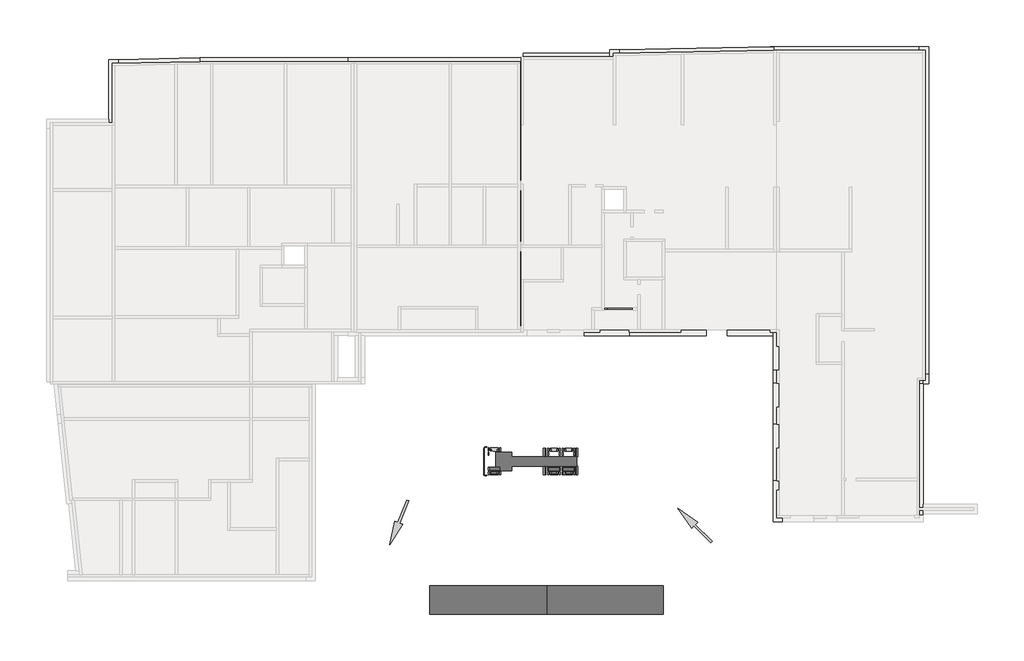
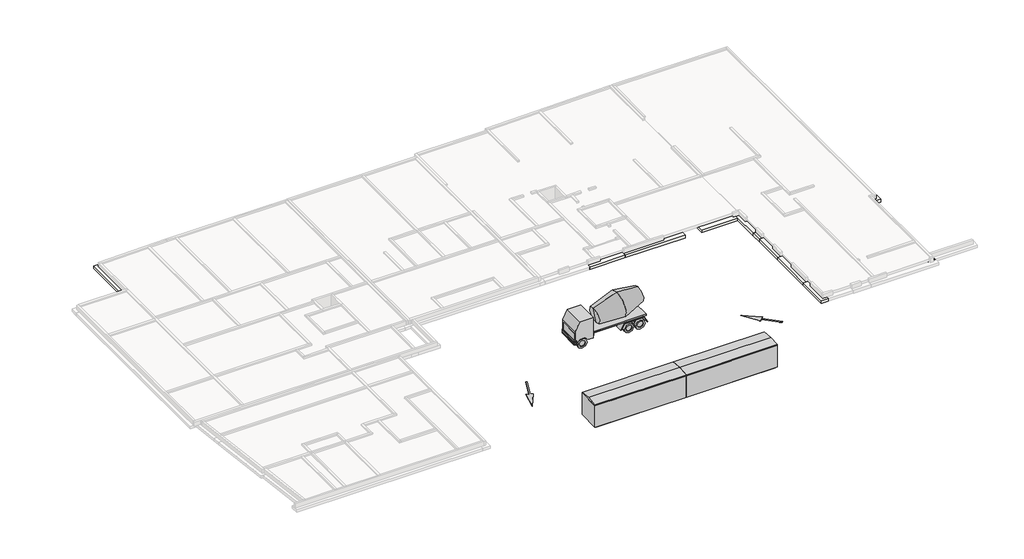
# One storey, part 5 of 5: 54 footings, 5 geographic elements.
"""IFC4 building model written with IfcOpenShell, lengths in millimetres."""

from ifc_helpers import new_model, si_unit, frame, origin, place, context, project, spatial, polyline, outline, extrude, faceted_brep, transform, mapped, element, save
from components import geographic_element_b339a1e2, geographic_element_11632a1a, geographic_element_9800mm_x_2400mm_0ce7ae14

model = new_model("IFC4")

# Units and contexts
model_context = context("Model", 3, world=origin())
ifc_project = project(units=[si_unit("LENGTHUNIT", "METRE", prefix="MILLI")], contexts=[model_context])

# Site, building, storey
site = spatial("IfcSite", under=ifc_project)
building = spatial("IfcBuilding", under=site)
storey = spatial("IfcBuildingStorey", under=building, Name="Base Mur soubassement", Elevation=-480.0)

# Footings
placement = place(None, origin())
element("IfcFooting", 1, ObjectType="Soubassement 30 cm/30 cm x 30 cm", at=placement, inside=storey, context=model_context, shape_type="Brep", body=[
    faceted_brep([(23329.3002373, 36682.4079561, -480.0), (24379.3002373, 36682.4079561, -480.0), (31528.7587922, 36682.4079561, -480.0), (32328.7587922, 36682.4079561, -480.0), (37308.398272, 36682.4079561, -480.0), (38358.398272, 36682.4079561, -480.0), (38358.398272, 37080.5992191, -480.0), (38358.398272, 37482.4079561, -480.0), (38068.6597873, 37482.4079561, -480.0), (23329.3002373, 37482.4079561, -480.0), (23329.3002373, 37482.4079561, -780.0), (38358.398272, 37482.4079561, -780.0), (38068.6597873, 37482.4079561, -780.0), (23329.3002373, 36682.4079561, -780.0), (38358.398272, 37080.5992191, -780.0), (38358.398272, 36682.4079561, -780.0), (37308.398272, 36682.4079561, -780.0), (32328.7587922, 36682.4079561, -780.0), (31528.7587922, 36682.4079561, -780.0), (24379.3002373, 36682.4079561, -780.0)], [[[0, 1, 2, 3, 4, 5, 6, 7, 8, 9]], [[10, 9, 8, 7, 11, 12]], [[13, 10, 12, 11, 14, 15, 16, 17, 18, 19]], [[0, 13, 19, 18, 17, 16, 15, 5, 4, 3, 2, 1]], [[0, 9, 10, 13]], [[7, 6, 5, 15, 14, 11]]]),
])
element("IfcFooting", 2, ObjectType="Soubassement 30 cm/30 cm x 30 cm", at=placement, inside=storey, context=model_context, shape_type="SweptSolid", body=[
    extrude(outline(polyline([(34393.5365752, 26372.4500352), (35193.5365752, 26372.4500352), (35193.5365752, 22073.8066571), (34393.5365752, 22073.8066571), (34393.5365752, 26372.4500352)])), frame((0.0, 0.0, -780.0), z_axis=(0.0, 0.0, 1.0), x_axis=(1.0, 0.0, 0.0)), (0.0, 0.0, 1.0), 300.0),
])
element("IfcFooting", 3, ObjectType="Soubassement 30 cm/30 cm x 30 cm", at=placement, inside=storey, context=model_context, shape_type="Brep", body=[
    faceted_brep([(4056.9078335, 32028.092309, -480.0), (3256.9078335, 32028.092309, -480.0), (3256.9078335, 32028.092309, -780.0), (4056.9078335, 32028.092309, -780.0), (4056.9078335, 36546.0880565, -480.0), (4056.9078335, 37346.2466037, -480.0), (3256.9078335, 37330.3186215, -480.0), (3256.9078335, 32328.092309, -480.0), (3256.9078335, 37330.3186215, -780.0), (3256.9078335, 32328.092309, -780.0), (4056.9078335, 37346.2466037, -780.0), (4056.9078335, 36546.0880565, -780.0)], [[[0, 1, 2, 3]], [[0, 4, 5, 6, 7, 1]], [[2, 1, 7, 6, 8, 9]], [[3, 2, 9, 8, 10, 11]], [[0, 3, 11, 10, 5, 4]], [[6, 5, 10, 8]]]),
])
element("IfcFooting", 4, ObjectType="Soubassement 30 cm/30 cm x 30 cm", at=placement, inside=storey, context=model_context, shape_type="Brep", body=[
    faceted_brep([(10903.7211106, 36682.4079561, -480.0), (10895.7579086, 37482.4079561, -480.0), (4056.9078335, 37346.2466037, -480.0), (4056.9078335, 36546.0880565, -480.0), (8517.5794193, 36634.8999283, -480.0), (9317.5794193, 36650.8279104, -480.0), (10895.7579086, 37482.4079561, -780.0), (4056.9078335, 37346.2466037, -780.0), (10903.7211106, 36682.4079561, -780.0), (9317.5794193, 36650.8279104, -780.0), (8517.5794193, 36634.8999283, -780.0), (4056.9078335, 36546.0880565, -780.0)], [[[0, 1, 2, 3, 4, 5]], [[1, 6, 7, 2]], [[6, 8, 9, 10, 11, 7]], [[8, 0, 5, 4, 3, 11, 10, 9]], [[3, 2, 7, 11]], [[1, 0, 8, 6]]]),
])
element("IfcFooting", 5, ObjectType="Soubassement 30 cm/30 cm x 30 cm", at=placement, inside=storey, context=model_context, shape_type="Brep", body=[
    faceted_brep([(10895.7579086, 37482.4079561, -480.0), (10903.7211106, 36682.4079561, -480.0), (11503.2656575, 36682.4079561, -480.0), (12303.2656575, 36682.4079561, -480.0), (17699.2548774, 36682.4079561, -480.0), (18499.2548774, 36682.4079561, -480.0), (23329.3002373, 36682.4079561, -480.0), (23329.3002373, 37482.4079561, -480.0), (10895.7579086, 37482.4079561, -780.0), (23329.3002373, 37482.4079561, -780.0), (10903.7211106, 36682.4079561, -780.0), (23329.3002373, 36682.4079561, -780.0), (18499.2548774, 36682.4079561, -780.0), (17699.2548774, 36682.4079561, -780.0), (12303.2656575, 36682.4079561, -780.0), (11503.2656575, 36682.4079561, -780.0)], [[[0, 1, 2, 3, 4, 5, 6, 7]], [[8, 0, 7, 9]], [[10, 8, 9, 11, 12, 13, 14, 15]], [[1, 10, 15, 14, 13, 12, 11, 6, 5, 4, 3, 2]], [[1, 0, 8, 10]], [[7, 6, 11, 9]]]),
])
element("IfcFooting", 6, ObjectType="Soubassement 30 cm/30 cm x 30 cm", at=placement, inside=storey, context=model_context, shape_type="Brep", body=[
    faceted_brep([(72098.498036, 10114.8529282, -480.0), (72098.498036, 38441.1158593, -480.0), (71298.498036, 38441.1158593, -480.0), (71298.498036, 37641.1158593, -480.0), (71298.498036, 15061.7009875, -480.0), (71298.498036, 14261.7009875, -480.0), (71298.498036, 10914.8529282, -480.0), (71298.498036, 10114.8529282, -480.0), (71617.0236897, 10114.8529282, -480.0), (71298.498036, 10114.8529282, -780.0), (71298.498036, 38441.1158593, -780.0), (71298.498036, 37641.1158593, -780.0), (71298.498036, 15061.7009875, -780.0), (71298.498036, 14261.7009875, -780.0), (71298.498036, 10914.8529282, -780.0), (72098.498036, 10114.8529282, -780.0), (71617.0236897, 10114.8529282, -780.0), (72098.498036, 38441.1158593, -780.0)], [[[0, 1, 2, 3, 4, 5, 6, 7, 8]], [[9, 7, 6, 5, 4, 3, 2, 10, 11, 12, 13, 14]], [[15, 16, 9, 14, 13, 12, 11, 10, 17]], [[0, 15, 17, 1]], [[0, 8, 7, 9, 16, 15]], [[2, 1, 17, 10]]]),
])
element("IfcFooting", 7, ObjectType="Soubassement 30 cm/30 cm x 30 cm", at=placement, inside=storey, context=model_context, shape_type="Brep", body=[
    faceted_brep([(71617.0236897, -917.313191, -780.0), (71617.0236897, -917.313191, -480.0), (70817.0236897, -917.313191, -480.0), (70817.0236897, -917.313191, -780.0), (70817.0236897, 10914.8529282, -480.0), (70817.0236897, 2504.0314703, -480.0), (70817.0236897, 1704.0314703, -480.0), (70817.0236897, -637.3118451, -480.0), (71617.0236897, -637.3118451, -480.0), (71617.0236897, 11.008028, -480.0), (71617.0236897, 10114.8529282, -480.0), (71298.498036, 10114.8529282, -480.0), (71298.498036, 10914.8529282, -480.0), (71617.0236897, -637.3118451, -780.0), (71617.0236897, 11.008028, -780.0), (71617.0236897, 10114.8529282, -780.0), (70817.0236897, -637.3118451, -780.0), (70817.0236897, 1704.0314703, -780.0), (70817.0236897, 2504.0314703, -780.0), (70817.0236897, 10914.8529282, -780.0), (71298.498036, 10914.8529282, -780.0), (71298.498036, 10114.8529282, -780.0)], [[[0, 1, 2, 3]], [[4, 5, 6, 7, 2, 1, 8, 9, 10, 11, 12]], [[1, 0, 13, 14, 15, 10, 9, 8]], [[0, 3, 16, 17, 18, 19, 20, 21, 15, 14, 13]], [[3, 2, 7, 6, 5, 4, 19, 18, 17, 16]], [[11, 21, 20, 12]], [[19, 4, 12, 20]], [[21, 11, 10, 15]]]),
])
element("IfcFooting", 8, ObjectType="Soubassement 30 cm/30 cm x 30 cm", at=placement, inside=storey, context=model_context, shape_type="Brep", body=[
    faceted_brep([(64513.2256523, 14241.7009875, -480.0), (65313.2256523, 14241.7009875, -480.0), (65313.2256523, 14241.7009875, -780.0), (64513.2256523, 14241.7009875, -780.0), (65313.2256523, -637.3118451, -480.0), (64513.2256523, 12249.233281, -480.0), (64513.2256523, 11449.233281, -480.0), (64513.2256523, -637.3118451, -480.0), (64513.2256523, -637.3118451, -780.0), (64513.2256523, 12249.233281, -780.0), (64513.2256523, 11449.233281, -780.0), (65313.2256523, -637.3118451, -780.0)], [[[0, 1, 2, 3]], [[4, 1, 0, 5, 6, 7]], [[8, 7, 6, 5, 0, 3, 9, 10]], [[11, 8, 10, 9, 3, 2]], [[4, 11, 2, 1]], [[4, 7, 8, 11]]]),
])
element("IfcFooting", 9, ObjectType="Soubassement 30 cm/30 cm x 30 cm", at=placement, inside=storey, context=model_context, shape_type="SweptSolid", body=[
    extrude(outline(polyline([(70817.0236897, 2504.0314703), (70817.0236897, 1704.0314703), (65324.2458389, 1704.0314703), (65324.2458389, 2504.0314703), (70817.0236897, 2504.0314703)])), frame((0.0, 0.0, -780.0), z_axis=(0.0, 0.0, 1.0), x_axis=(1.0, 0.0, 0.0)), (0.0, 0.0, 1.0), 300.0),
])
element("IfcFooting", 10, ObjectType="Soubassement 30 cm/30 cm x 30 cm", at=placement, inside=storey, context=model_context, shape_type="Brep", body=[
    faceted_brep([(62372.0019144, 12249.233281, -480.0), (62372.0019144, 11449.233281, -480.0), (64513.2256523, 11449.233281, -480.0), (64513.2256523, 12249.233281, -480.0), (63172.0019144, 12249.233281, -480.0), (62372.0019144, 11449.233281, -780.0), (64513.2256523, 11449.233281, -780.0), (62372.0019144, 12249.233281, -780.0), (63172.0019144, 12249.233281, -780.0), (64513.2256523, 12249.233281, -780.0)], [[[0, 1, 2, 3, 4]], [[1, 5, 6, 2]], [[5, 7, 8, 9, 6]], [[7, 0, 4, 3, 9, 8]], [[3, 2, 6, 9]], [[1, 0, 7, 5]]]),
])
element("IfcFooting", 11, ObjectType="Soubassement 30 cm/30 cm x 30 cm", at=placement, inside=storey, context=model_context, shape_type="Brep", body=[
    faceted_brep([(63172.0019144, 16304.7371374, -480.0), (62372.0019144, 16304.7371374, -480.0), (62372.0019144, 12249.233281, -480.0), (63172.0019144, 12249.233281, -480.0), (63172.0019144, 15504.7371374, -480.0), (62372.0019144, 16304.7371374, -780.0), (62372.0019144, 12249.233281, -780.0), (63172.0019144, 16304.7371374, -780.0), (63172.0019144, 15504.7371374, -780.0), (63172.0019144, 12249.233281, -780.0)], [[[0, 1, 2, 3, 4]], [[1, 5, 6, 2]], [[5, 7, 8, 9, 6]], [[7, 0, 4, 3, 9, 8]], [[3, 2, 6, 9]], [[1, 0, 7, 5]]]),
])
element("IfcFooting", 12, ObjectType="Soubassement 30 cm/30 cm x 30 cm", at=placement, inside=storey, context=model_context, shape_type="Brep", body=[
    faceted_brep([(64512.3933514, 20922.6249159, -480.0), (64512.3933514, 16304.7371374, -480.0), (64512.3933514, 15504.7371374, -480.0), (64512.3933514, 14261.7009875, -480.0), (65312.3933514, 14261.7009875, -480.0), (65312.3933514, 15061.7009875, -480.0), (65312.3933514, 20922.6249159, -480.0), (65312.3933514, 20922.6249159, -780.0), (65312.3933514, 14261.7009875, -780.0), (65312.3933514, 15061.7009875, -780.0), (64512.3933514, 20922.6249159, -780.0), (64512.3933514, 14261.7009875, -780.0), (64512.3933514, 15504.7371374, -780.0), (64512.3933514, 16304.7371374, -780.0)], [[[0, 1, 2, 3, 4, 5, 6]], [[7, 6, 5, 4, 8, 9]], [[10, 7, 9, 8, 11, 12, 13]], [[0, 10, 13, 12, 11, 3, 2, 1]], [[4, 3, 11, 8]], [[0, 6, 7, 10]]]),
])
element("IfcFooting", 13, ObjectType="Soubassement 30 cm/30 cm x 30 cm", at=placement, inside=storey, context=model_context, shape_type="SweptSolid", body=[
    extrude(outline(polyline([(64512.3933514, 16304.7371374), (64512.3933514, 15504.7371374), (63172.0019144, 15504.7371374), (63172.0019144, 16304.7371374), (64512.3933514, 16304.7371374)])), frame((0.0, 0.0, -780.0), z_axis=(0.0, 0.0, 1.0), x_axis=(1.0, 0.0, 0.0)), (0.0, 0.0, 1.0), 300.0),
])
element("IfcFooting", 14, ObjectType="Soubassement 30 cm/30 cm x 30 cm", at=placement, inside=storey, context=model_context, shape_type="SweptSolid", body=[
    extrude(outline(polyline([(65312.3933514, 14261.7009875), (65312.3933514, 15061.7009875), (71298.498036, 15061.7009875), (71298.498036, 14261.7009875), (65312.3933514, 14261.7009875)])), frame((0.0, 0.0, -780.0), z_axis=(0.0, 0.0, 1.0), x_axis=(1.0, 0.0, 0.0)), (0.0, 0.0, 1.0), 300.0),
])
element("IfcFooting", 15, ObjectType="Soubassement 30 cm/30 cm x 30 cm", at=placement, inside=storey, context=model_context, shape_type="Brep", body=[
    faceted_brep([(59853.8975177, 11276.7065018, -480.0), (59852.9134361, 11276.7065018, -480.0), (59053.8975177, 11276.7065018, -480.0), (59053.8975177, 11276.7065018, -780.0), (59852.9134361, 11276.7065018, -780.0), (59853.8975177, 11276.7065018, -780.0), (59053.8975177, 14660.5941452, -480.0), (59853.8975177, 14660.5941452, -480.0), (59853.8975177, 14660.5941452, -780.0), (59053.8975177, 14660.5941452, -780.0), (59053.8975177, 14157.8380715, -480.0), (59053.8975177, 14157.8380715, -780.0)], [[[0, 1, 2, 3, 4, 5]], [[6, 7, 8, 9]], [[0, 7, 6, 10, 2, 1]], [[3, 2, 10, 6, 9, 11]], [[5, 4, 3, 11, 9, 8]], [[0, 5, 8, 7]]]),
])
element("IfcFooting", 16, ObjectType="Soubassement 30 cm/30 cm x 30 cm", at=placement, inside=storey, context=model_context, shape_type="Brep", body=[
    faceted_brep([(59852.9134361, 10176.7065018, -480.0), (59053.8975177, 10176.7065018, -480.0), (59052.9134361, 10176.7065018, -480.0), (59052.9134361, 10176.7065018, -780.0), (59053.8975177, 10176.7065018, -780.0), (59852.9134361, 10176.7065018, -780.0), (59052.9134361, 11276.7065018, -480.0), (59053.8975177, 11276.7065018, -480.0), (59852.9134361, 11276.7065018, -480.0), (59852.9134361, 11276.7065018, -780.0), (59053.8975177, 11276.7065018, -780.0), (59052.9134361, 11276.7065018, -780.0)], [[[0, 1, 2, 3, 4, 5]], [[6, 7, 8, 9, 10, 11]], [[0, 8, 7, 6, 2, 1]], [[3, 2, 6, 11]], [[5, 4, 3, 11, 10, 9]], [[0, 5, 9, 8]]]),
])
element("IfcFooting", 17, ObjectType="Soubassement 30 cm/30 cm x 30 cm", at=placement, inside=storey, context=model_context, shape_type="Brep", body=[
    faceted_brep([(59853.8975177, 6727.955072, -480.0), (59053.8975177, 6727.955072, -480.0), (59053.8975177, 6727.955072, -780.0), (59853.8975177, 6727.955072, -780.0), (59053.8975177, 10176.7065018, -480.0), (59852.9134361, 10176.7065018, -480.0), (59853.8975177, 10176.7065018, -480.0), (59853.8975177, 10176.7065018, -780.0), (59852.9134361, 10176.7065018, -780.0), (59053.8975177, 10176.7065018, -780.0)], [[[0, 1, 2, 3]], [[4, 5, 6, 7, 8, 9]], [[0, 6, 5, 4, 1]], [[2, 1, 4, 9]], [[3, 2, 9, 8, 7]], [[0, 3, 7, 6]]]),
])
element("IfcFooting", 18, ObjectType="Soubassement 30 cm/30 cm x 30 cm", at=placement, inside=storey, context=model_context, shape_type="Brep", body=[
    faceted_brep([(59853.8975177, 1982.6881549, -480.0), (59852.8933514, 1982.6881549, -480.0), (59053.8975177, 1982.6881549, -480.0), (59053.8975177, 1982.6881549, -780.0), (59852.8933514, 1982.6881549, -780.0), (59853.8975177, 1982.6881549, -780.0), (59053.8975177, 6727.955072, -480.0), (59853.8975177, 6727.955072, -480.0), (59853.8975177, 6727.955072, -780.0), (59053.8975177, 6727.955072, -780.0)], [[[0, 1, 2, 3, 4, 5]], [[6, 7, 8, 9]], [[0, 7, 6, 2, 1]], [[3, 2, 6, 9]], [[5, 4, 3, 9, 8]], [[0, 5, 8, 7]]]),
])
element("IfcFooting", 19, ObjectType="Soubassement 30 cm/30 cm x 30 cm", at=placement, inside=storey, context=model_context, shape_type="Brep", body=[
    faceted_brep([(59052.8933514, 1982.6881549, -480.0), (59053.8975177, 1982.6881549, -480.0), (59852.8933514, 1982.6881549, -480.0), (59852.8933514, 1982.6881549, -780.0), (59053.8975177, 1982.6881549, -780.0), (59052.8933514, 1982.6881549, -780.0), (59852.8933514, -1433.5235574, -480.0), (59852.8933514, -633.5235574, -480.0), (59052.8933514, -1433.5235574, -480.0), (59052.8933514, -1433.5235574, -780.0), (59852.8933514, -1433.5235574, -780.0), (59852.8933514, -633.5235574, -780.0)], [[[0, 1, 2, 3, 4, 5]], [[6, 7, 2, 1, 0, 8]], [[9, 8, 0, 5]], [[10, 9, 5, 4, 3, 11]], [[6, 10, 11, 3, 2, 7]], [[6, 8, 9, 10]]]),
])
element("IfcFooting", 20, ObjectType="Soubassement 30 cm/30 cm x 30 cm", at=placement, inside=storey, context=model_context, shape_type="SweptSolid", body=[
    extrude(outline(polyline([(55181.1686241, 14157.8380715), (55181.1686241, 14957.8380715), (59853.8975177, 14957.8380715), (59853.8975177, 14660.5941452), (59053.8975177, 14660.5941452), (59053.8975177, 14157.8380715), (55181.1686241, 14157.8380715)])), frame((0.0, 0.0, -780.0), z_axis=(0.0, 0.0, 1.0), x_axis=(1.0, 0.0, 0.0)), (0.0, 0.0, 1.0), 300.0),
])
element("IfcFooting", 21, ObjectType="Soubassement 30 cm/30 cm x 30 cm", at=placement, inside=storey, context=model_context, shape_type="Brep", body=[
    faceted_brep([(53429.9149229, 14957.8380717, -480.0), (53429.9149229, 14157.8380717, -480.0), (53429.9149229, 14157.8380717, -780.0), (53429.9149229, 14957.8380717, -780.0), (46971.20252, 14157.8380717, -480.0), (46971.20252, 14162.1405969, -480.0), (46971.20252, 14957.8380717, -480.0), (46971.20252, 14957.8380717, -780.0), (46971.20252, 14162.1405969, -780.0), (46971.20252, 14157.8380717, -780.0), (50224.9149229, 14957.8380717, -480.0), (49424.9149229, 14957.8380717, -480.0), (48187.6540405, 14957.8380717, -480.0), (47387.6540405, 14957.8380717, -480.0), (47387.6540405, 14957.8380717, -780.0), (48187.6540405, 14957.8380717, -780.0), (49424.9149229, 14957.8380717, -780.0), (50224.9149229, 14957.8380717, -780.0)], [[[0, 1, 2, 3]], [[4, 5, 6, 7, 8, 9]], [[0, 10, 11, 12, 13, 6, 5, 4, 1]], [[2, 1, 4, 9]], [[3, 2, 9, 8, 7, 14, 15, 16, 17]], [[0, 3, 17, 16, 15, 14, 7, 6, 13, 12, 11, 10]]]),
])
element("IfcFooting", 22, ObjectType="Soubassement 30 cm/30 cm x 30 cm", at=placement, inside=storey, context=model_context, shape_type="Brep", body=[
    faceted_brep([(59092.1504559, 21722.6249159, -480.0), (59092.1504559, 20922.6249159, -480.0), (59092.1504559, 20922.6249159, -780.0), (59092.1504559, 21722.6249159, -780.0), (49424.9149229, 20922.6249159, -480.0), (50224.9149229, 20922.6249159, -480.0), (58792.2183923, 21722.6249159, -480.0), (55555.0439194, 21722.6249159, -480.0), (54755.0439194, 21722.6249159, -480.0), (50224.9149229, 21722.6249159, -480.0), (49424.9149229, 21722.6249159, -480.0), (49424.9149229, 21722.6249159, -780.0), (58792.2183923, 21722.6249159, -780.0), (55555.0439194, 21722.6249159, -780.0), (54755.0439194, 21722.6249159, -780.0), (50224.9149229, 21722.6249159, -780.0), (49424.9149229, 20922.6249159, -780.0), (50224.9149229, 20922.6249159, -780.0)], [[[0, 1, 2, 3]], [[4, 5, 1, 0, 6, 7, 8, 9, 10]], [[11, 10, 9, 8, 7, 6, 0, 3, 12, 13, 14, 15]], [[16, 11, 15, 14, 13, 12, 3, 2, 17]], [[4, 16, 17, 2, 1, 5]], [[4, 10, 11, 16]]]),
])
element("IfcFooting", 23, ObjectType="Soubassement 30 cm/30 cm x 30 cm", at=placement, inside=storey, context=model_context, shape_type="Brep", body=[
    faceted_brep([(59352.3933514, 20922.6249159, -480.0), (64512.3933514, 20922.6249159, -480.0), (65312.3933514, 20922.6249159, -480.0), (65913.8694348, 20922.6249159, -480.0), (65913.8694348, 21722.6249159, -480.0), (65113.8694348, 21722.6249159, -480.0), (59852.3933514, 21722.6249159, -480.0), (59352.3933514, 21722.6249159, -480.0), (59352.3933514, 21722.6249159, -780.0), (65913.8694348, 21722.6249159, -780.0), (65113.8694348, 21722.6249159, -780.0), (59852.3933514, 21722.6249159, -780.0), (59352.3933514, 20922.6249159, -780.0), (65913.8694348, 20922.6249159, -780.0), (65312.3933514, 20922.6249159, -780.0), (64512.3933514, 20922.6249159, -780.0)], [[[0, 1, 2, 3, 4, 5, 6, 7]], [[8, 7, 6, 5, 4, 9, 10, 11]], [[12, 8, 11, 10, 9, 13, 14, 15]], [[0, 12, 15, 14, 13, 3, 2, 1]], [[4, 3, 13, 9]], [[0, 7, 8, 12]]]),
])
element("IfcFooting", 24, ObjectType="Soubassement 30 cm/30 cm x 30 cm", at=placement, inside=storey, context=model_context, shape_type="SweptSolid", body=[
    extrude(outline(polyline([(54755.0439194, 37538.6297893), (55555.0439194, 37538.6297893), (55555.0439194, 21722.6249159), (54755.0439194, 21722.6249159), (54755.0439194, 37538.6297893)])), frame((0.0, 0.0, -780.0), z_axis=(0.0, 0.0, 1.0), x_axis=(1.0, 0.0, 0.0)), (0.0, 0.0, 1.0), 300.0),
])
element("IfcFooting", 25, ObjectType="Soubassement 30 cm/30 cm x 30 cm", at=placement, inside=storey, context=model_context, shape_type="SweptSolid", body=[
    extrude(outline(polyline([(65113.8694348, 37621.1158593), (65913.8694348, 37621.1158593), (65913.8694348, 21722.6249159), (65113.8694348, 21722.6249159), (65113.8694348, 37621.1158593)])), frame((0.0, 0.0, -780.0), z_axis=(0.0, 0.0, 1.0), x_axis=(1.0, 0.0, 0.0)), (0.0, 0.0, 1.0), 300.0),
])
element("IfcFooting", 26, ObjectType="Soubassement 30 cm/30 cm x 30 cm", at=placement, inside=storey, context=model_context, shape_type="Brep", body=[
    faceted_brep([(47577.0291518, 22282.4542325, -480.0), (46777.0291518, 22282.4542325, -480.0), (46777.0291518, 22282.4542325, -780.0), (47577.0291518, 22282.4542325, -780.0), (47577.0291518, 22582.4542325, -480.0), (47577.0291518, 24200.9913711, -480.0), (46777.0291518, 24200.9913711, -480.0), (46777.0291518, 22582.4542325, -480.0), (46777.0291518, 24200.9913711, -780.0), (46777.0291518, 22582.4542325, -780.0), (47577.0291518, 24200.9913711, -780.0), (47577.0291518, 22582.4542325, -780.0)], [[[0, 1, 2, 3]], [[0, 4, 5, 6, 7, 1]], [[2, 1, 7, 6, 8, 9]], [[3, 2, 9, 8, 10, 11]], [[0, 3, 11, 10, 5, 4]], [[6, 5, 10, 8]]]),
])
element("IfcFooting", 27, ObjectType="Soubassement 30 cm/30 cm x 30 cm", at=placement, inside=storey, context=model_context, shape_type="Brep", body=[
    faceted_brep([(46707.3903862, 24200.9913711, -480.0), (46707.3903862, 25000.9913711, -480.0), (46707.3903862, 25000.9913711, -780.0), (46707.3903862, 24200.9913711, -780.0), (49092.5494774, 25000.9913711, -480.0), (49092.5494774, 24200.9913711, -480.0), (49092.5494774, 24200.9913711, -780.0), (49092.5494774, 25000.9913711, -780.0), (46777.0291518, 24200.9913711, -480.0), (47577.0291518, 24200.9913711, -480.0), (47577.0291518, 24200.9913711, -780.0), (46777.0291518, 24200.9913711, -780.0)], [[[0, 1, 2, 3]], [[4, 5, 6, 7]], [[0, 8, 9, 5, 4, 1]], [[2, 1, 4, 7]], [[3, 2, 7, 6, 10, 11]], [[0, 3, 11, 10, 6, 5, 9, 8]]]),
])
element("IfcFooting", 28, ObjectType="Soubassement 30 cm/30 cm x 30 cm", at=placement, inside=storey, context=model_context, shape_type="Brep", body=[
    faceted_brep([(44357.2462422, 24500.9913711, -480.0), (45157.2462422, 24500.9913711, -480.0), (45157.2462422, 24500.9913711, -780.0), (44357.2462422, 24500.9913711, -780.0), (44357.2462422, 22072.4500352, -480.0), (44357.2462422, 21272.4500352, -480.0), (44357.2462422, 19184.2379364, -480.0), (44357.2462422, 18384.2379364, -480.0), (44357.2462422, 16802.6881549, -480.0), (44357.2462422, 16002.6881549, -480.0), (45157.2462422, 16002.6881549, -480.0), (45157.2462422, 16002.6881549, -780.0), (44357.2462422, 16002.6881549, -780.0), (44357.2462422, 16802.6881549, -780.0), (44357.2462422, 18384.2379364, -780.0), (44357.2462422, 19184.2379364, -780.0), (44357.2462422, 21272.4500352, -780.0), (44357.2462422, 22072.4500352, -780.0)], [[[0, 1, 2, 3]], [[0, 4, 5, 6, 7, 8, 9, 10, 1]], [[2, 1, 10, 11]], [[3, 2, 11, 12, 13, 14, 15, 16, 17]], [[0, 3, 17, 16, 15, 14, 13, 12, 9, 8, 7, 6, 5, 4]], [[10, 9, 12, 11]]]),
])
element("IfcFooting", 29, ObjectType="Soubassement 30 cm/30 cm x 30 cm", at=placement, inside=storey, context=model_context, shape_type="SweptSolid", body=[
    extrude(outline(polyline([(49824.9149229, 25000.9913711), (49824.9149229, 24200.9913711), (49092.5494774, 24200.9913711), (49092.5494774, 25000.9913711), (49824.9149229, 25000.9913711)])), frame((0.0, 0.0, -780.0), z_axis=(0.0, 0.0, 1.0), x_axis=(1.0, 0.0, 0.0)), (0.0, 0.0, 1.0), 300.0),
])
element("IfcFooting", 30, ObjectType="Soubassement 30 cm/30 cm x 30 cm", at=placement, inside=storey, context=model_context, shape_type="Brep", body=[
    faceted_brep([(38166.5033212, 26357.8817009, -780.0), (38166.5033212, 26357.8817009, -480.0), (38166.5033212, 26372.4500352, -480.0), (38166.5033212, 26372.4500352, -780.0), (44162.2590145, 27157.8817009, -780.0), (44162.2590145, 27157.8817009, -480.0), (44162.2590145, 26357.8817009, -480.0), (44162.2590145, 26357.8817009, -780.0), (38358.398272, 26357.8817009, -480.0), (41566.5033212, 26357.8817009, -480.0), (42366.5033212, 26357.8817009, -480.0), (38358.398272, 27157.8817009, -480.0), (38358.398272, 26372.4500352, -480.0), (38358.398272, 27157.8817009, -780.0), (42366.5033212, 26357.8817009, -780.0), (41566.5033212, 26357.8817009, -780.0), (38358.398272, 26357.8817009, -780.0), (38358.398272, 26372.4500352, -780.0)], [[[0, 1, 2, 3]], [[4, 5, 6, 7]], [[1, 8, 9, 10, 6, 5, 11, 12, 2]], [[5, 4, 13, 11]], [[4, 7, 14, 15, 16, 0, 3, 17, 13]], [[1, 0, 16, 15, 14, 7, 6, 10, 9, 8]], [[12, 17, 3, 2]], [[17, 12, 11, 13]]]),
])
element("IfcFooting", 31, ObjectType="Soubassement 30 cm/30 cm x 30 cm", at=placement, inside=storey, context=model_context, shape_type="SweptSolid", body=[
    extrude(outline(polyline([(44162.2590145, 26357.8817009), (44162.2590145, 27157.8817009), (44757.2462422, 27157.8817009), (44757.2462422, 26357.8817009), (44162.2590145, 26357.8817009)])), frame((0.0, 0.0, -780.0), z_axis=(0.0, 0.0, 1.0), x_axis=(1.0, 0.0, 0.0)), (0.0, 0.0, 1.0), 300.0),
])
element("IfcFooting", 32, ObjectType="Soubassement 30 cm/30 cm x 30 cm", at=placement, inside=storey, context=model_context, shape_type="SweptSolid", body=[
    extrude(outline(polyline([(42366.5033212, 22072.4500352), (41566.5033212, 22072.4500352), (41566.5033212, 26357.8817009), (42366.5033212, 26357.8817009), (42366.5033212, 22072.4500352)])), frame((0.0, 0.0, -780.0), z_axis=(0.0, 0.0, 1.0), x_axis=(1.0, 0.0, 0.0)), (0.0, 0.0, 1.0), 300.0),
])
element("IfcFooting", 33, ObjectType="Soubassement 30 cm/30 cm x 30 cm", at=placement, inside=storey, context=model_context, shape_type="Brep", body=[
    faceted_brep([(37868.7313075, 21272.4500352, -780.0), (37868.7313075, 21272.4500352, -480.0), (37868.7313075, 21273.8066571, -480.0), (37868.7313075, 21273.8066571, -780.0), (38358.398272, 21272.4500352, -480.0), (40928.6220947, 21272.4500352, -480.0), (41728.6220947, 21272.4500352, -480.0), (44357.2462422, 21272.4500352, -480.0), (44357.2462422, 22072.4500352, -480.0), (42366.5033212, 22072.4500352, -480.0), (41566.5033212, 22072.4500352, -480.0), (38358.398272, 22072.4500352, -480.0), (38358.398272, 21273.8066571, -480.0), (38358.398272, 21272.4500352, -780.0), (40928.6220947, 21272.4500352, -780.0), (41728.6220947, 21272.4500352, -780.0), (44357.2462422, 21272.4500352, -780.0), (38358.398272, 21273.8066571, -780.0), (38358.398272, 22072.4500352, -780.0), (41566.5033212, 22072.4500352, -780.0), (42366.5033212, 22072.4500352, -780.0), (44357.2462422, 22072.4500352, -780.0)], [[[0, 1, 2, 3]], [[1, 4, 5, 6, 7, 8, 9, 10, 11, 12, 2]], [[1, 0, 13, 14, 15, 16, 7, 6, 5, 4]], [[16, 15, 14, 13, 0, 3, 17, 18, 19, 20, 21]], [[8, 21, 20, 19, 18, 11, 10, 9]], [[8, 7, 16, 21]], [[12, 17, 3, 2]], [[17, 12, 11, 18]]]),
])
element("IfcFooting", 34, ObjectType="Soubassement 30 cm/30 cm x 30 cm", at=placement, inside=storey, context=model_context, shape_type="Brep", body=[
    faceted_brep([(40928.6220947, 18384.2379364, -480.0), (41728.6220947, 18384.2379364, -480.0), (41728.6220947, 19184.2379364, -480.0), (41728.6220947, 21272.4500352, -480.0), (40928.6220947, 21272.4500352, -480.0), (40928.6220947, 19184.2379364, -480.0), (40928.6220947, 18384.2379364, -780.0), (40928.6220947, 21272.4500352, -780.0), (40928.6220947, 19184.2379364, -780.0), (41728.6220947, 18384.2379364, -780.0), (41728.6220947, 21272.4500352, -780.0), (41728.6220947, 19184.2379364, -780.0)], [[[0, 1, 2, 3, 4, 5]], [[6, 0, 5, 4, 7, 8]], [[9, 6, 8, 7, 10, 11]], [[1, 9, 11, 10, 3, 2]], [[4, 3, 10, 7]], [[1, 0, 6, 9]]]),
])
element("IfcFooting", 35, ObjectType="Soubassement 30 cm/30 cm x 30 cm", at=placement, inside=storey, context=model_context, shape_type="Brep", body=[
    faceted_brep([(38068.6597873, 19184.2379364, -480.0), (38068.6597873, 19184.2379364, -780.0), (38068.6597873, 18384.2379364, -780.0), (38068.6597873, 18384.2379364, -480.0), (38358.398272, 18384.2379364, -480.0), (40928.6220947, 18384.2379364, -480.0), (40928.6220947, 19184.2379364, -480.0), (38358.398272, 19184.2379364, -480.0), (40928.6220947, 19184.2379364, -780.0), (38358.398272, 19184.2379364, -780.0), (40928.6220947, 18384.2379364, -780.0), (38358.398272, 18384.2379364, -780.0)], [[[0, 1, 2, 3]], [[0, 3, 4, 5, 6, 7]], [[1, 0, 7, 6, 8, 9]], [[2, 1, 9, 8, 10, 11]], [[3, 2, 11, 10, 5, 4]], [[6, 5, 10, 8]]]),
    faceted_brep([(44357.2462422, 19184.2379364, -780.0), (44357.2462422, 19184.2379364, -480.0), (44357.2462422, 18384.2379364, -480.0), (44357.2462422, 18384.2379364, -780.0), (41728.6220947, 19184.2379364, -480.0), (41728.6220947, 18384.2379364, -480.0), (41728.6220947, 19184.2379364, -780.0), (41728.6220947, 18384.2379364, -780.0)], [[[0, 1, 2, 3]], [[2, 1, 4, 5]], [[1, 0, 6, 4]], [[0, 3, 7, 6]], [[3, 2, 5, 7]], [[5, 4, 6, 7]]]),
])
element("IfcFooting", 36, ObjectType="Soubassement 30 cm/30 cm x 30 cm", at=placement, inside=storey, context=model_context, shape_type="Brep", body=[
    faceted_brep([(47387.6540405, 18865.2786309, -480.0), (48187.6540405, 18865.2786309, -480.0), (48187.6540405, 18865.2786309, -780.0), (47387.6540405, 18865.2786309, -780.0), (47387.6540405, 18565.2786309, -480.0), (47387.6540405, 16802.6881549, -480.0), (47387.6540405, 16002.6881549, -480.0), (47387.6540405, 14957.8380717, -480.0), (48187.6540405, 14957.8380717, -480.0), (48187.6540405, 18565.2786309, -480.0), (48187.6540405, 14957.8380717, -780.0), (48187.6540405, 18565.2786309, -780.0), (47387.6540405, 14957.8380717, -780.0), (47387.6540405, 16002.6881549, -780.0), (47387.6540405, 16802.6881549, -780.0), (47387.6540405, 18565.2786309, -780.0)], [[[0, 1, 2, 3]], [[0, 4, 5, 6, 7, 8, 9, 1]], [[2, 1, 9, 8, 10, 11]], [[3, 2, 11, 10, 12, 13, 14, 15]], [[0, 3, 15, 14, 13, 12, 7, 6, 5, 4]], [[8, 7, 12, 10]]]),
])
element("IfcFooting", 37, ObjectType="Soubassement 30 cm/30 cm x 30 cm", at=placement, inside=storey, context=model_context, shape_type="SweptSolid", body=[
    extrude(outline(polyline([(47387.6540405, 16802.6881549), (47387.6540405, 16002.6881549), (45162.6540405, 16002.6881549), (45162.6540405, 16802.6881549), (47387.6540405, 16802.6881549)])), frame((0.0, 0.0, -780.0), z_axis=(0.0, 0.0, 1.0), x_axis=(1.0, 0.0, 0.0)), (0.0, 0.0, 1.0), 300.0),
])
element("IfcFooting", 38, ObjectType="Soubassement 30 cm/30 cm x 30 cm", at=placement, inside=storey, context=model_context, shape_type="SweptSolid", body=[
    extrude(outline(polyline([(44357.2462422, 16802.6881549), (44357.2462422, 16002.6881549), (44297.5546594, 16002.6881549), (44297.5546594, 16802.6881549), (44357.2462422, 16802.6881549)])), frame((0.0, 0.0, -780.0), z_axis=(0.0, 0.0, 1.0), x_axis=(1.0, 0.0, 0.0)), (0.0, 0.0, 1.0), 300.0),
])
element("IfcFooting", 39, ObjectType="Soubassement 30 cm/30 cm x 30 cm", at=placement, inside=storey, context=model_context, shape_type="Brep", body=[
    faceted_brep([(46971.20252, 14962.1405969, -480.0), (46971.20252, 14957.8380717, -480.0), (46971.20252, 14162.1405969, -480.0), (46971.20252, 14162.1405969, -780.0), (46971.20252, 14957.8380717, -780.0), (46971.20252, 14962.1405969, -780.0), (43150.9645277, 14162.1405969, -480.0), (43150.9645277, 14162.6998135, -480.0), (43150.9645277, 14962.1405969, -480.0), (43150.9645277, 14962.1405969, -780.0), (43150.9645277, 14162.6998135, -780.0), (43150.9645277, 14162.1405969, -780.0), (44297.5546594, 14962.1405969, -480.0), (43497.5546594, 14962.1405969, -480.0), (43497.5546594, 14962.1405969, -780.0), (44297.5546594, 14962.1405969, -780.0)], [[[0, 1, 2, 3, 4, 5]], [[6, 7, 8, 9, 10, 11]], [[0, 12, 13, 8, 7, 6, 2, 1]], [[3, 2, 6, 11]], [[5, 4, 3, 11, 10, 9, 14, 15]], [[0, 5, 15, 14, 9, 8, 13, 12]]]),
])
element("IfcFooting", 40, ObjectType="Soubassement 30 cm/30 cm x 30 cm", at=placement, inside=storey, context=model_context, shape_type="Brep", body=[
    faceted_brep([(46118.6199345, 27157.8817009, -480.0), (45318.6199345, 27157.8817009, -480.0), (45318.6199345, 27157.8817009, -780.0), (46118.6199345, 27157.8817009, -780.0), (45318.6199345, 38162.9814431, -480.0), (45318.6199345, 37880.5992191, -480.0), (45318.6199345, 37080.5992191, -480.0), (46118.6199345, 37378.7483131, -480.0), (46118.6199345, 38178.9068082, -480.0), (46118.6199345, 38178.9068082, -780.0), (46118.6199345, 37378.7483131, -780.0), (45318.6199345, 38162.9814431, -780.0), (45318.6199345, 37080.5992191, -780.0), (45318.6199345, 37880.5992191, -780.0)], [[[0, 1, 2, 3]], [[4, 5, 6, 1, 0, 7, 8]], [[9, 8, 7, 0, 3, 10]], [[11, 9, 10, 3, 2, 12, 13]], [[4, 11, 13, 12, 2, 1, 6, 5]], [[4, 8, 9, 11]]]),
])
element("IfcFooting", 41, ObjectType="Soubassement 30 cm/30 cm x 30 cm", at=placement, inside=storey, context=model_context, shape_type="SweptSolid", body=[
    extrude(outline(polyline([(45318.6199345, 37880.5992191), (45318.6199345, 37080.5992191), (38358.398272, 37080.5992191), (38358.398272, 37482.4079561), (38068.6597873, 37482.4079561), (38068.6597873, 37880.5992191), (45318.6199345, 37880.5992191)])), frame((0.0, 0.0, -780.0), z_axis=(0.0, 0.0, 1.0), x_axis=(1.0, 0.0, 0.0)), (0.0, 0.0, 1.0), 300.0),
])
element("IfcFooting", 42, ObjectType="Soubassement 30 cm/30 cm x 30 cm", at=placement, inside=storey, context=model_context, shape_type="Brep", body=[
    faceted_brep([(59102.1697739, 37637.2080269, -480.0), (59102.1697739, 37637.2080269, -780.0), (59086.2475633, 38437.0495632, -780.0), (59086.2475633, 38437.0495632, -480.0), (46118.6199345, 38178.9068082, -480.0), (46118.6199345, 37378.7483131, -480.0), (51033.0781831, 37476.5789902, -480.0), (51833.0781831, 37492.5043553, -480.0), (58802.3933514, 37631.2404656, -480.0), (46118.6199345, 37378.7483131, -780.0), (51033.0781831, 37476.5789902, -780.0), (51833.0781831, 37492.5043553, -780.0), (58802.3933514, 37631.2404656, -780.0), (46118.6199345, 38178.9068082, -780.0)], [[[0, 1, 2, 3]], [[0, 3, 4, 5, 6, 7, 8]], [[1, 0, 8, 7, 6, 5, 9, 10, 11, 12]], [[2, 1, 12, 11, 10, 9, 13]], [[3, 2, 13, 4]], [[5, 4, 13, 9]]]),
])
element("IfcFooting", 43, ObjectType="Soubassement 30 cm/30 cm x 30 cm", at=placement, inside=storey, context=model_context, shape_type="SweptSolid", body=[
    extrude(outline(polyline([(51833.0781831, 27157.8817009), (51033.0781831, 27157.8817009), (51033.0781831, 37476.5789902), (51833.0781831, 37492.5043553), (51833.0781831, 27157.8817009)])), frame((0.0, 0.0, -780.0), z_axis=(0.0, 0.0, 1.0), x_axis=(1.0, 0.0, 0.0)), (0.0, 0.0, 1.0), 300.0),
])
element("IfcFooting", 44, ObjectType="Soubassement 30 cm/30 cm x 30 cm", at=placement, inside=storey, context=model_context, shape_type="Brep", body=[
    faceted_brep([(58802.3933514, 38441.1158593, -480.0), (58802.3933514, 37641.1158593, -480.0), (59102.0919818, 37641.1158593, -480.0), (59852.3933514, 37641.1158593, -480.0), (71298.498036, 37641.1158593, -480.0), (71298.498036, 38441.1158593, -480.0), (58802.3933514, 37641.1158593, -780.0), (59102.0919818, 37641.1158593, -780.0), (59852.3933514, 37641.1158593, -780.0), (71298.498036, 37641.1158593, -780.0), (58802.3933514, 38441.1158593, -780.0), (71298.498036, 38441.1158593, -780.0)], [[[0, 1, 2, 3, 4, 5]], [[1, 6, 7, 8, 9, 4, 3, 2]], [[6, 10, 11, 9, 8, 7]], [[10, 0, 5, 11]], [[5, 4, 9, 11]], [[1, 0, 10, 6]]]),
])
element("IfcFooting", 45, ObjectType="Soubassement 55 cm/30 cm x 30 cm pour mur jd", at=placement, inside=storey, context=model_context, shape_type="Brep", body=[
    faceted_brep([(59852.3933514, 26622.6223725, -780.0), (59852.3933514, 26622.6223725, -480.0), (59352.3933514, 26622.6223725, -480.0), (59292.2183923, 26622.6223725, -480.0), (58802.3933514, 26622.6223725, -480.0), (58802.3933514, 26622.6223725, -780.0), (59292.2183923, 26622.6223725, -780.0), (59352.3933514, 26622.6223725, -780.0), (59852.3933514, 37641.1158593, -480.0), (59102.0919818, 37641.1158593, -480.0), (59102.1697739, 37637.2080269, -480.0), (58802.3933514, 37631.2404656, -480.0), (59852.3933514, 37641.1158593, -780.0), (58802.3933514, 37631.2404656, -780.0), (59102.1697739, 37637.2080269, -780.0), (59102.0919818, 37641.1158593, -780.0)], [[[0, 1, 2, 3, 4, 5, 6, 7]], [[4, 3, 2, 1, 8, 9, 10, 11]], [[1, 0, 12, 8]], [[0, 7, 6, 5, 13, 14, 15, 12]], [[5, 4, 11, 13]], [[8, 12, 15, 9]], [[10, 14, 13, 11]], [[14, 10, 9, 15]]]),
])
element("IfcFooting", 46, ObjectType="Soubassement 0 cm/30 cm x 30 cm", at=placement, inside=storey, context=model_context, shape_type="SweptSolid", body=[
    extrude(outline(polyline([(59352.3933514, 26622.6223725), (59852.3933514, 26622.6223725), (59852.3933514, 21722.6249159), (59352.3933514, 21722.6249159), (59352.3933514, 26622.6223725)])), frame((0.0, 0.0, -780.0), z_axis=(0.0, 0.0, 1.0), x_axis=(1.0, 0.0, 0.0)), (0.0, 0.0, 1.0), 300.0),
])
element("IfcFooting", 47, ObjectType="Soubassement 0 cm/30 cm x 30 cm", at=placement, inside=storey, context=model_context, shape_type="Brep", body=[
    faceted_brep([(59292.2183923, 20922.6249159, -780.0), (59292.2183923, 20922.6249159, -480.0), (59092.1504559, 20922.6249159, -480.0), (59092.1504559, 20922.6249159, -780.0), (58792.2183923, 26622.6223725, -780.0), (58792.2183923, 26622.6223725, -480.0), (58802.3933514, 26622.6223725, -480.0), (59292.2183923, 26622.6223725, -480.0), (59292.2183923, 26622.6223725, -780.0), (58802.3933514, 26622.6223725, -780.0), (58792.2183923, 21722.6249159, -480.0), (59092.1504559, 21722.6249159, -480.0), (58792.2183923, 21722.6249159, -780.0), (59092.1504559, 21722.6249159, -780.0)], [[[0, 1, 2, 3]], [[4, 5, 6, 7, 8, 9]], [[1, 7, 6, 5, 10, 11, 2]], [[5, 4, 12, 10]], [[4, 9, 8, 0, 3, 13, 12]], [[1, 0, 8, 7]], [[11, 13, 3, 2]], [[13, 11, 10, 12]]]),
])
element("IfcFooting", 48, ObjectType="Soubassement 55 cm/30 cm x 30 cm pour mur jd", at=placement, inside=storey, context=model_context, shape_type="SweptSolid", body=[
    extrude(outline(polyline([(37308.398272, 27172.4500352), (37308.398272, 36682.4079561), (38358.398272, 36682.4079561), (38358.398272, 27172.4500352), (37308.398272, 27172.4500352)])), frame((0.0, 0.0, -780.0), z_axis=(0.0, 0.0, 1.0), x_axis=(1.0, 0.0, 0.0)), (0.0, 0.0, 1.0), 300.0),
    extrude(outline(polyline([(37308.398272, 22073.8066571), (37308.398272, 26372.4500352), (38166.5033212, 26372.4500352), (38166.5033212, 26357.8817009), (38358.398272, 26357.8817009), (38358.398272, 22073.8066571), (37308.398272, 22073.8066571)])), frame((0.0, 0.0, -780.0), z_axis=(0.0, 0.0, 1.0), x_axis=(1.0, 0.0, 0.0)), (0.0, 0.0, 1.0), 300.0),
    extrude(outline(polyline([(37308.398272, 14964.3593187), (37308.398272, 21273.8066571), (37868.7313075, 21273.8066571), (37868.7313075, 21272.4500352), (38358.398272, 21272.4500352), (38358.398272, 19184.2379364), (38068.6597873, 19184.2379364), (38068.6597873, 18384.2379364), (38358.398272, 18384.2379364), (38358.398272, 14964.3593187), (37308.398272, 14964.3593187)])), frame((0.0, 0.0, -780.0), z_axis=(0.0, 0.0, 1.0), x_axis=(1.0, 0.0, 0.0)), (0.0, 0.0, 1.0), 300.0),
])
element("IfcFooting", 49, ObjectType="Soubassement 30 cm/30 cm x 30 cm", at=placement, inside=storey, context=model_context, shape_type="SweptSolid", body=[
    extrude(outline(polyline([(72098.498036, 10914.8529282), (72098.498036, 10114.8529282), (71617.0236897, 10114.8529282), (71617.0236897, 10914.8529282), (72098.498036, 10914.8529282)])), frame((0.0, 0.0, -780.0), z_axis=(0.0, 0.0, 1.0), x_axis=(1.0, 0.0, 0.0)), (0.0, 0.0, 1.0), 300.0),
])
element("IfcFooting", 50, ObjectType="Soubassement 30 cm/30 cm x 30 cm", at=placement, inside=storey, context=model_context, shape_type="Brep", body=[
    faceted_brep([(49424.9149229, 18865.2786309, -480.0), (50224.9149229, 18865.2786309, -480.0), (50224.9149229, 18865.2786309, -780.0), (49424.9149229, 18865.2786309, -780.0), (50224.9149229, 14957.8380717, -480.0), (49424.9149229, 18565.2786309, -480.0), (49424.9149229, 14957.8380717, -480.0), (49424.9149229, 14957.8380717, -780.0), (49424.9149229, 18565.2786309, -780.0), (50224.9149229, 14957.8380717, -780.0)], [[[0, 1, 2, 3]], [[4, 1, 0, 5, 6]], [[7, 6, 5, 0, 3, 8]], [[9, 7, 8, 3, 2]], [[4, 9, 2, 1]], [[4, 6, 7, 9]]]),
])
element("IfcFooting", 51, ObjectType="Soubassement 30 cm/30 cm x 30 cm", at=placement, inside=storey, context=model_context, shape_type="Brep", body=[
    faceted_brep([(50224.9149229, 19065.2786309, -780.0), (50224.9149229, 19065.2786309, -480.0), (49424.9149229, 19065.2786309, -480.0), (49424.9149229, 19065.2786309, -780.0), (50224.9149229, 20922.6249159, -480.0), (49424.9149229, 20922.6249159, -480.0), (49424.9149229, 19365.2786309, -480.0), (50224.9149229, 20922.6249159, -780.0), (49424.9149229, 19365.2786309, -780.0), (49424.9149229, 20922.6249159, -780.0)], [[[0, 1, 2, 3]], [[2, 1, 4, 5, 6]], [[1, 0, 7, 4]], [[0, 3, 8, 9, 7]], [[3, 2, 6, 5, 9, 8]], [[5, 4, 7, 9]]]),
    faceted_brep([(50224.9149229, 22582.4542325, -480.0), (49424.9149229, 22582.4542325, -480.0), (49424.9149229, 21782.4542325, -480.0), (49424.9149229, 21722.6249159, -480.0), (50224.9149229, 21722.6249159, -480.0), (50224.9149229, 22582.4542325, -780.0), (50224.9149229, 21722.6249159, -780.0), (49424.9149229, 22582.4542325, -780.0), (49424.9149229, 21722.6249159, -780.0), (49424.9149229, 21782.4542325, -780.0)], [[[0, 1, 2, 3, 4]], [[5, 0, 4, 6]], [[7, 5, 6, 8, 9]], [[1, 7, 9, 8, 3, 2]], [[4, 3, 8, 6]], [[1, 0, 5, 7]]]),
])
element("IfcFooting", 52, ObjectType="Soubassement 30 cm/30 cm x 30 cm", at=placement, inside=storey, context=model_context, shape_type="Brep", body=[
    faceted_brep([(46777.0291518, 22582.4542325, -480.0), (46211.356287, 22582.4542325, -480.0), (46211.356287, 21782.4542325, -480.0), (47011.356287, 21782.4542325, -480.0), (49424.9149229, 21782.4542325, -480.0), (49424.9149229, 22582.4542325, -480.0), (47577.0291518, 22582.4542325, -480.0), (47577.0291518, 22282.4542325, -480.0), (46777.0291518, 22282.4542325, -480.0), (46211.356287, 21782.4542325, -780.0), (47011.356287, 21782.4542325, -780.0), (49424.9149229, 21782.4542325, -780.0), (46211.356287, 22582.4542325, -780.0), (46777.0291518, 22582.4542325, -780.0), (46777.0291518, 22282.4542325, -780.0), (47577.0291518, 22282.4542325, -780.0), (47577.0291518, 22582.4542325, -780.0), (49424.9149229, 22582.4542325, -780.0)], [[[0, 1, 2, 3, 4, 5, 6, 7, 8]], [[2, 9, 10, 11, 4, 3]], [[12, 13, 14, 15, 16, 17, 11, 10, 9]], [[1, 0, 13, 12]], [[16, 6, 5, 17]], [[14, 8, 7, 15]], [[8, 14, 13, 0]], [[15, 7, 6, 16]], [[5, 4, 11, 17]], [[2, 1, 12, 9]]]),
])
element("IfcFooting", 53, ObjectType="Soubassement 30 cm/30 cm x 30 cm", at=placement, inside=storey, context=model_context, shape_type="Brep", body=[
    faceted_brep([(46211.356287, 18565.2786309, -480.0), (47011.356287, 18565.2786309, -480.0), (47011.356287, 19365.2786309, -480.0), (47011.356287, 21782.4542325, -480.0), (46211.356287, 21782.4542325, -480.0), (47011.356287, 18565.2786309, -780.0), (47011.356287, 19365.2786309, -780.0), (47011.356287, 21782.4542325, -780.0), (46211.356287, 18565.2786309, -780.0), (46211.356287, 21782.4542325, -780.0)], [[[0, 1, 2, 3, 4]], [[1, 5, 6, 7, 3, 2]], [[5, 8, 9, 7, 6]], [[8, 0, 4, 9]], [[4, 3, 7, 9]], [[1, 0, 8, 5]]]),
])
element("IfcFooting", 54, ObjectType="Soubassement 30 cm/30 cm x 30 cm", at=placement, inside=storey, context=model_context, shape_type="SweptSolid", body=[
    extrude(outline(polyline([(48187.6540405, 18865.2786309), (47387.6540405, 18865.2786309), (47387.6540405, 18565.2786309), (47011.356287, 18565.2786309), (47011.356287, 19365.2786309), (49424.9149229, 19365.2786309), (49424.9149229, 19065.2786309), (50224.9149229, 19065.2786309), (50224.9149229, 18865.2786309), (49424.9149229, 18865.2786309), (49424.9149229, 18565.2786309), (48187.6540405, 18565.2786309), (48187.6540405, 18865.2786309)])), frame((0.0, 0.0, -780.0), z_axis=(0.0, 0.0, 1.0), x_axis=(1.0, 0.0, 0.0)), (0.0, 0.0, 1.0), 300.0),
])

# Geographic elements
geographic_element_shape = geographic_element_b339a1e2(model_context)
element("IfcGeographicElement", 55, ObjectType="Camion bétonnière : Camion bétonnière", at=placement, inside=storey, context=model_context, shape_type="MappedRepresentation", body=[
    mapped(geographic_element_shape, transform((38764.3196898, 3567.2789347, 0.0), x_axis=(-0.0007622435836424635, -0.9999997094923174, 0.0), y_axis=(0.9999997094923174, -0.0007622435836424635, 0.0), z_axis=(0.0, 0.0, 1.0))),
])
geographic_element_2_shape = geographic_element_11632a1a(model_context)
element("IfcGeographicElement", 56, ObjectType="Marquage routier - Flèche de continuité : Marquage routier - Flèche de continuité", at=placement, inside=storey, context=model_context, shape_type="MappedRepresentation", body=[
    mapped(geographic_element_2_shape, transform((53857.1195579, -3161.5254075, 0.0), x_axis=(0.7071067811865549, 0.7071067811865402, 0.0), y_axis=(-0.7071067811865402, 0.7071067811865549, 0.0), z_axis=(0.0, 0.0, 1.0))),
])
element("IfcGeographicElement", 57, ObjectType="Marquage routier - Flèche de continuité : Marquage routier - Flèche de continuité", at=placement, inside=storey, context=model_context, shape_type="MappedRepresentation", body=[
    mapped(geographic_element_2_shape, transform((28359.0771191, 318.6115605, 0.0), x_axis=(-0.9271838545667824, 0.37460659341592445, 0.0), y_axis=(-0.37460659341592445, -0.9271838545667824, 0.0), z_axis=(0.0, 0.0, 1.0))),
])
geographic_element_9800mm_x_2400mm_shape = geographic_element_9800mm_x_2400mm_0ce7ae14(model_context)
element("IfcGeographicElement", 58, ObjectType="Unité mobile de chantier : 9800mm x 2400mm", at=placement, inside=storey, context=model_context, shape_type="MappedRepresentation", body=[
    mapped(geographic_element_9800mm_x_2400mm_shape, transform((35113.9815225, -8033.5235574, -780.0), x_axis=(1.0, 0.0, 0.0), y_axis=(0.0, 1.0, 0.0), z_axis=(0.0, 0.0, 1.0))),
])
element("IfcGeographicElement", 59, ObjectType="Unité mobile de chantier : 9800mm x 2400mm", at=placement, inside=storey, context=model_context, shape_type="MappedRepresentation", body=[
    mapped(geographic_element_9800mm_x_2400mm_shape, transform((44913.9815225, -8033.5235574, -780.0), x_axis=(1.0, 0.0, 0.0), y_axis=(0.0, 1.0, 0.0), z_axis=(0.0, 0.0, 1.0))),
])

save(model, "model.ifc")
